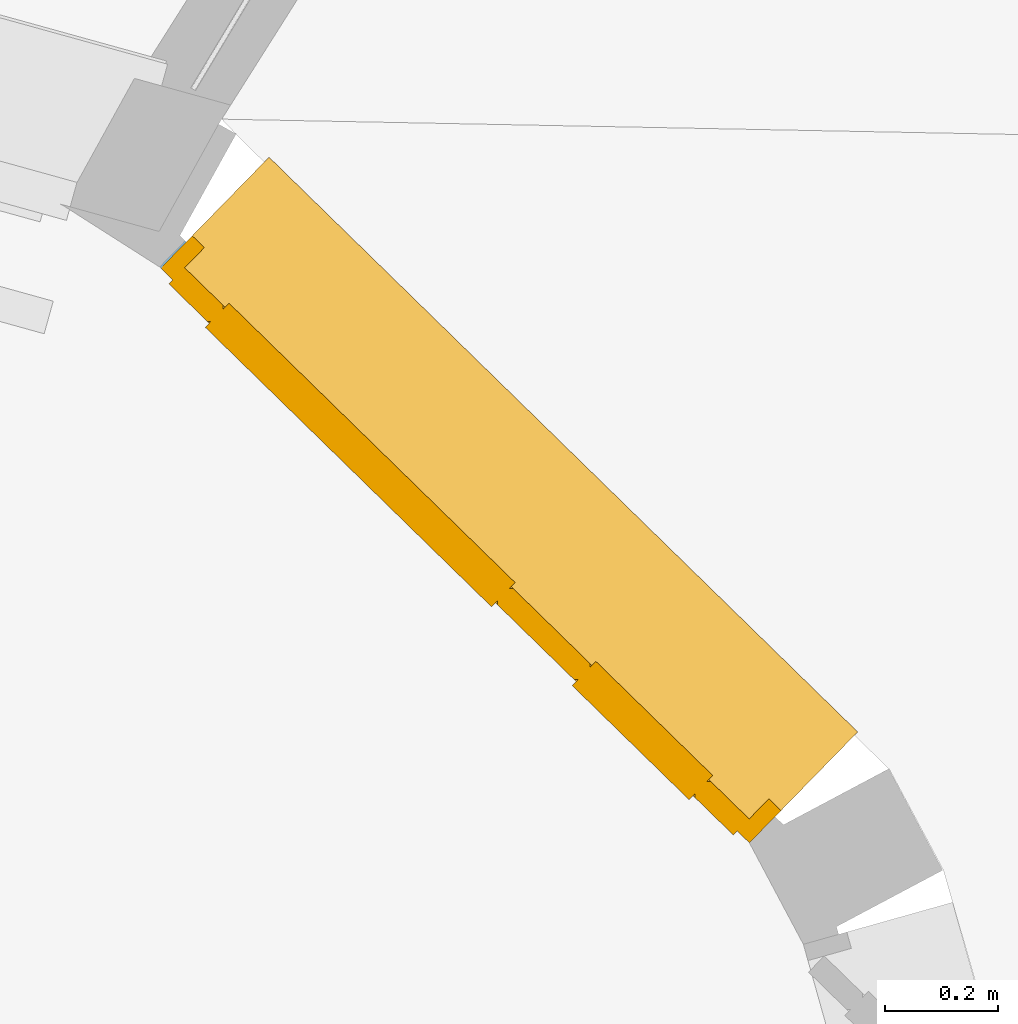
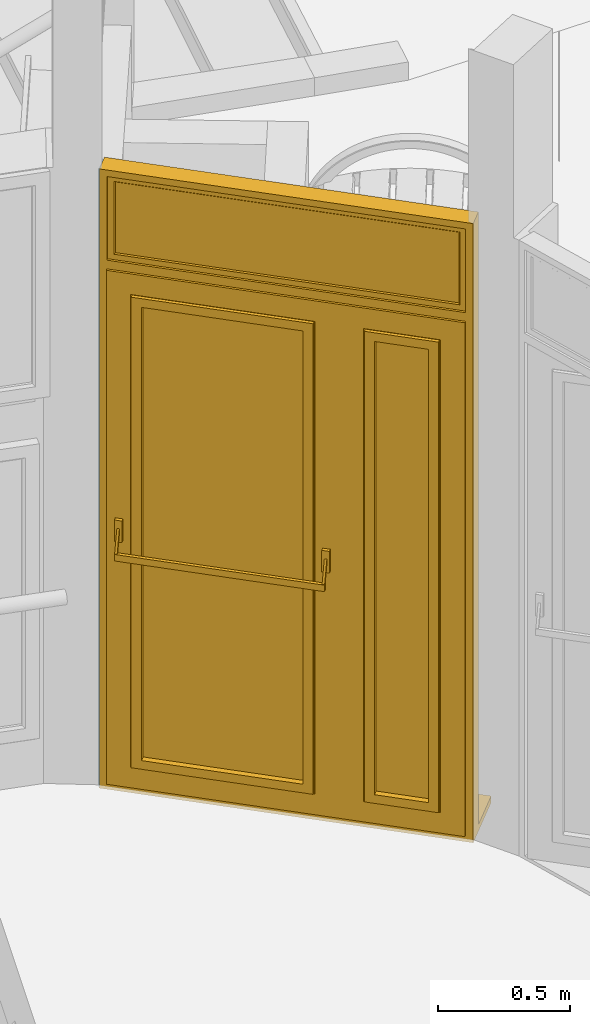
# One storey, part 102 of 133: 1 door, 1 opening, plus 1 element that does not belong to this part.
"""IFC2X3 building model written with IfcOpenShell, lengths in centimetres."""

from ifc_helpers import new_model, entity, si_unit, converted_unit, direction, frame, origin, origin_with_axes, origin_2d_with_axis, place, context, subcontext, project, spatial, polyline, rectangle, outline, extrude, faceted_brep, shape, material, material_list, layer, layer_set, layer_usage, type_object, element, fill, save


model = new_model("IFC2X3")

# Units and contexts
model_context = context("Model", 3, precision=0.0001, world=origin(), true_north=direction((0.225632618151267, 0.974212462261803, 0.0)))
body_context = subcontext(model_context, "Body", "Model", "MODEL_VIEW")
footprint_context = subcontext(model_context, "FootPrint", "Model", "MODEL_VIEW")
profile_context = subcontext(model_context, "Profile", "Model", "MODEL_VIEW")
ifc_project = project(units=[si_unit("LENGTHUNIT", "METRE", prefix="CENTI"), si_unit("AREAUNIT", "SQUARE_METRE", prefix="CENTI"), si_unit("VOLUMEUNIT", "CUBIC_METRE", prefix="CENTI"), converted_unit("PLANEANGLEUNIT", "DEGREE", entity("IfcRatioMeasure", 0.0174532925), si_unit("PLANEANGLEUNIT", "RADIAN"), dimensions=[0, 0, 0, 0, 0, 0, 0])], contexts=[model_context])

# Site, building, storey
site_placement = place(None, origin_with_axes())
site = spatial("IfcSite", under=ifc_project, at=site_placement, Name="Default Site", CompositionType="ELEMENT")
building_placement = place(site_placement, origin_with_axes())
building = spatial("IfcBuilding", under=site, at=building_placement, Name="Default Building", CompositionType="ELEMENT")
storey_placement = place(building_placement, frame((0.0, 0.0, -291.400371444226), z_axis=(0.0, 0.0, 1.0), x_axis=(1.0, 0.0, 0.0)))
storey = spatial("IfcBuildingStorey", under=building, at=storey_placement, Name="Rez-de-Jardin", CompositionType="ELEMENT", Elevation=-291.400371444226)

# Wall, opening, door
ifc_material_1 = material(Name="<aucun>")
ifc_layer = layer(ifc_material_1, 6.5)
ifc_layer_set = layer_set([ifc_layer], Name="default")
ifc_layer_usage = layer_usage(ifc_layer_set, "AXIS2", "POSITIVE", -3.25)
wall_type = type_object("IfcWallType", Name="default 65", PredefinedType="NOTDEFINED", material=ifc_layer_set)
wall_placement = place(storey_placement, frame((1577.95969652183, -375.2853678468, 106.0), z_axis=(0.0, 0.0, 1.0), x_axis=(-0.715501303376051, 0.698611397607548, 0.0)))
wall = element("IfcWallStandardCase", 1, at=wall_placement, inside=storey, type_object=wall_type, material=ifc_layer_usage, Name="Enveloppe 525107", context=body_context, shape_type="SweptSolid", body=[
    extrude(rectangle(XDim=6.49999999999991, YDim=146.254944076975, at=origin_2d_with_axis()), frame((73.1274720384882, 3.5527136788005e-13, -1.55431223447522e-13), z_axis=(0.0, 0.0, 1.0), x_axis=(1.95399252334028e-14, -1.0, 0.0)), (0.0, 0.0, 1.0), 285.400371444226),
])
opening_placement = place(wall_placement, frame((0.0, 0.0, 2.49999999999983), z_axis=(0.0, 0.0, 1.0), x_axis=(1.0, 6.82787160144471e-15, 0.0)))
cartesian_point_1 = entity("IfcCartesianPoint", [0.0, 1.77635683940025e-13, 282.9])
cartesian_point_2 = entity("IfcCartesianPoint", [145.978741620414, 3.25000000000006])
opening = element("IfcOpeningElement", 2, at=opening_placement, cuts=wall, Name="4294966389_11", ObjectType="Opening", shapes=[
    shape(body_context, "Body", "SweptSolid", [extrude(outline(polyline([(0.0, 282.9), (0.0, -2.49999999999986), (145.978741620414, -2.49999999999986), (145.978741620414, 282.9), (0.0, 282.9)])), frame((0.0, 13.25, 0.0), z_axis=(0.0, -1.0, 0.0), x_axis=(1.0, 0.0, 0.0)), (0.0, 0.0, 1.0), 26.5)]),
    shape(profile_context, "Profile", "GeometricCurveSet", [entity("IfcGeometricCurveSet", [entity("IfcPolyline", [cartesian_point_1, entity("IfcCartesianPoint", [0.0, 1.77635683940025e-13, -2.22044604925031e-14]), entity("IfcCartesianPoint", [145.978741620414, 1.77635683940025e-13, -2.22044604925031e-14]), entity("IfcCartesianPoint", [145.978741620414, 1.77635683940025e-13, 282.9]), cartesian_point_1])])]),
    shape(footprint_context, "FootPrint", "GeometricCurveSet", [entity("IfcGeometricCurveSet", [entity("IfcPolyline", [cartesian_point_2, entity("IfcCartesianPoint", [0.0, 3.25000000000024]), entity("IfcCartesianPoint", [0.0, -3.25000000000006]), entity("IfcCartesianPoint", [145.978741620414, -3.25000000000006]), cartesian_point_2])])]),
])
ifc_material_2 = material(Name="Transparent")
ifc_material_3 = material(Name="Béton (01)")
ifc_material_4 = material(Name="Blanc trafic")
ifc_material_5 = material(Name="Aluminium mat")
ifc_material_list = material_list([ifc_material_2, ifc_material_3, ifc_material_4, ifc_material_5])
door_style = type_object("IfcDoorStyle", Name="Porte de Secours_blanc_ 2VB verre_tierce+1IMP verre", ConstructionType="NOTDEFINED", OperationType="DOUBLE_DOOR_SINGLE_SWING", ParameterTakesPrecedence=True, Sizeable=False, material=ifc_material_list)
door_placement = place(opening_placement, frame((0.0, -4.74999999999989, 1.4210854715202e-14), z_axis=(0.0, 0.0, 1.0), x_axis=(1.0, 0.0, 0.0)))
door = element("IfcDoor", 3, at=door_placement, inside=storey, type_object=door_style, material=ifc_material_list, Name="Porte 525457", OverallHeight=282.9, OverallWidth=145.978741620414, context=body_context, shape_type="Brep", body=[
    faceted_brep([(145.978775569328, 8.00002468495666, 2.27689760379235e-06), (-1.33417527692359e-05, 7.99999799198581, 2.27689760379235e-06), (2.60272607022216e-05, 1.5000347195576, 2.27689760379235e-06), (3.09660208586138e-05, -19.4999839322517, 2.27689760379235e-06), (145.978734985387, -19.5000068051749, 2.27689760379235e-06), (145.97874670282, 1.4999947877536, 2.27689760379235e-06), (145.97874670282, 1.4999947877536, -2.99999486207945), (145.978734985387, -19.5000068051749, -2.99999486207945), (3.09660208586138e-05, -19.4999839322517, -2.99999486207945), (2.60272607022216e-05, 1.5000347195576, -2.99999486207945), (-1.33417527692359e-05, 7.99999799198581, -2.99999486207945), (145.978775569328, 8.00002468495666, -2.99999486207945), (145.97874706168, -19.5000068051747, 2.27689760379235e-06), (145.97874706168, -19.5000068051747, -2.99999486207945), (3.09660212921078e-05, -19.5000092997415, 2.27689760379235e-06), (3.09660212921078e-05, -19.5000092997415, -2.99999486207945), (3.06071606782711e-05, 1.50003471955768, 2.27689760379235e-06), (3.06071606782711e-05, 1.50003471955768, -2.99999486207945), (2.59161856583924e-05, 7.99999799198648, 2.27689760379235e-06), (2.59161856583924e-05, 7.99999799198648, -2.99999486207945), (145.978775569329, 8.00000048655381, 2.27689760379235e-06), (145.978775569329, 8.00000048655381, -2.99999486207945), (145.978775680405, 1.4999947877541, 2.27689760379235e-06), (145.978775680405, 1.4999947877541, -2.99999486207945)], [[[0, 1, 2, 3, 4, 5]], [[6, 7, 8, 9, 10, 11]], [[5, 12, 13, 6]], [[4, 14, 15, 7]], [[3, 16, 17, 8]], [[2, 18, 19, 9]], [[1, 20, 21, 10]], [[0, 22, 23, 11]]]),
    faceted_brep([(2.37148647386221e-06, 8.94068818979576e-08, 6.66133814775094e-14), (2.37148647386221e-06, 7.99999991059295, 6.66133814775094e-14), (2.99999951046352, 7.99999991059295, 6.66133814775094e-14), (2.99999951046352, 8.94068818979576e-08, 6.66133814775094e-14), (2.99999951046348, 7.99999991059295, 279.900002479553), (2.99999951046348, 8.94068818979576e-08, 279.900002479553), (2.37148647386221e-06, 7.99999991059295, 282.89999961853), (2.99999951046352, 7.99999991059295, 279.900002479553), (2.37148645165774e-06, 8.94068818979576e-08, 282.89999961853), (2.37148645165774e-06, 7.99999991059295, 282.89999961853), (2.99999951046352, 8.94068818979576e-08, 279.900002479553), (2.37148647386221e-06, 8.94068818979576e-08, 282.89999961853), (142.978742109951, 7.99999991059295, 279.900002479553), (142.978742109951, 8.94068818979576e-08, 279.900002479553), (145.978739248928, 7.99999991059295, 282.89999961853), (145.978739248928, 8.94068818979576e-08, 282.89999961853), (142.978742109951, 8.94068818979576e-08, 6.66133814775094e-14), (142.978742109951, 7.99999991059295, 6.66133814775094e-14), (145.978739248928, 7.99999991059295, 6.66133814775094e-14), (145.978739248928, 8.94068818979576e-08, 6.66133814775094e-14)], [[[0, 1, 2, 3]], [[3, 2, 4, 5]], [[2, 1, 6, 7]], [[1, 0, 8, 9]], [[0, 3, 10, 11]], [[10, 7, 12, 13]], [[7, 6, 14, 12]], [[6, 11, 15, 14]], [[11, 10, 13, 15]], [[16, 17, 18, 19]], [[13, 12, 17, 16]], [[12, 14, 18, 17]], [[14, 15, 19, 18]], [[15, 13, 16, 19]]]),
    faceted_brep([(140.478744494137, 4.99999997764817, 277.39999294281), (139.978741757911, 5.50000271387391, 276.900005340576), (139.978741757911, 5.50000271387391, 244.273996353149), (140.478744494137, 4.99999997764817, 243.774008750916), (139.978739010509, 5.4999999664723, 276.900005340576), (139.978739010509, 6.50000003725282, 276.900005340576), (139.978739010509, 6.50000003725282, 244.273996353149), (139.978739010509, 5.4999999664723, 244.273996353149), (140.478741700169, 7.00000272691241, 277.39999294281), (140.478741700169, 7.00000272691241, 243.774008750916), (139.978739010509, 6.50000003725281, 244.273996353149), (140.478744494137, 6.99999993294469, 277.39999294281), (142.978742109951, 6.99999993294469, 279.900002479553), (142.978742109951, 6.99999993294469, 241.273999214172), (140.478744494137, 6.99999993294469, 243.774008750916), (142.978742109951, 4.99999997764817, 279.900002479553), (142.978742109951, 4.99999997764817, 241.273999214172), (139.978739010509, 5.49999377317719, 244.274002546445), (6.00000260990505, 5.49999377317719, 244.274002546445), (5.49999712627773, 4.99999997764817, 243.774008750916), (6.00000260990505, 6.50000003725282, 244.273996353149), (6.00000260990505, 5.4999999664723, 244.273996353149), (140.478744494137, 6.99999378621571, 243.774002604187), (5.49999712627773, 6.99999378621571, 243.774002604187), (2.99999951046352, 6.99999993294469, 241.273999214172), (5.49999712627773, 6.99999993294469, 243.774008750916), (2.99999951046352, 4.99999997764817, 241.273999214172), (5.99999986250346, 5.5000027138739, 244.273996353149), (5.99999986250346, 5.5000027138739, 276.900005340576), (5.49999712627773, 4.99999997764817, 277.39999294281), (6.00000260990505, 6.50000003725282, 276.900005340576), (6.00000260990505, 5.4999999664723, 276.900005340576), (5.49999992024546, 7.00000272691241, 243.774008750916), (5.49999992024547, 7.00000272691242, 277.39999294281), (6.00000260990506, 6.50000003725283, 276.900005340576), (2.99999951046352, 6.99999993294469, 279.900002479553), (5.49999712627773, 6.99999993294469, 277.39999294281), (2.99999951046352, 4.99999997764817, 279.900002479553), (6.00000260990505, 5.49999377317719, 276.899999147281), (139.978739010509, 5.49999377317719, 276.899999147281), (5.49999712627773, 6.99999378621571, 277.399999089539), (140.478744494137, 6.99999378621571, 277.399999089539)], [[[0, 1, 2, 3]], [[4, 5, 6, 7]], [[5, 8, 9, 10]], [[11, 12, 13, 14]], [[12, 15, 16, 13]], [[15, 0, 3, 16]], [[3, 17, 18, 19]], [[7, 6, 20, 21]], [[6, 22, 23, 20]], [[14, 13, 24, 25]], [[13, 16, 26, 24]], [[16, 3, 19, 26]], [[19, 27, 28, 29]], [[21, 20, 30, 31]], [[20, 32, 33, 34]], [[25, 24, 35, 36]], [[24, 26, 37, 35]], [[26, 19, 29, 37]], [[29, 38, 39, 0]], [[31, 30, 5, 4]], [[30, 40, 41, 5]], [[36, 35, 12, 11]], [[35, 37, 15, 12]], [[37, 29, 0, 15]]]),
    faceted_brep([(6.00000260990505, 5.4999999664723, 276.900005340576), (6.00000260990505, 5.4999999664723, 244.273996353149), (139.978739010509, 5.4999999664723, 244.273996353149), (139.978739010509, 5.4999999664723, 276.900005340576), (139.978739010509, 6.50000003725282, 276.900005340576), (139.978739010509, 6.50000003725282, 244.273996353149), (6.00000260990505, 6.50000003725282, 244.273996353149), (6.00000260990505, 6.50000003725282, 276.900005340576)], [[[0, 1, 2, 3]], [[4, 5, 6, 7]], [[3, 2, 5, 4]], [[2, 1, 6, 5]], [[1, 0, 7, 6]], [[0, 3, 4, 7]]]),
    faceted_brep([(2.99999951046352, 7.99999991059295, 237.27400302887), (2.99999951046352, 3.99999999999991, 237.27400302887), (2.99999951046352, 3.99999999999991, 241.273999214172), (2.99999951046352, 7.99999991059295, 241.273999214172), (142.978742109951, 7.99999991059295, 241.273999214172), (142.978742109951, 3.99999999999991, 241.273999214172), (142.978742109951, 3.99999999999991, 237.27400302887), (142.978742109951, 7.99999991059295, 237.27400302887)], [[[0, 1, 2, 3]], [[4, 5, 6, 7]], [[3, 2, 5, 4]], [[2, 1, 6, 5]], [[1, 0, 7, 6]], [[0, 3, 4, 7]]]),
    faceted_brep([(51.9927421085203, 6.50000003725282, 237.27400302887), (2.99974321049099, 6.50000003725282, 237.27400302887), (2.99974321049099, 6.50000003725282, 6.66133814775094e-14), (51.9927421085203, 6.50000003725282, 6.66133814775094e-14), (51.9927421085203, 7.50000001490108, 6.66133814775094e-14), (2.99974321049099, 7.50000001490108, 6.66133814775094e-14), (2.99974321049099, 7.50000001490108, 237.27400302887), (51.9927421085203, 7.50000001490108, 237.27400302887), (2.99999951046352, 7.50000001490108, 237.27400302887), (2.99999951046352, 7.50000001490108, 6.66133814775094e-14), (51.9925603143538, 7.50000001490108, 6.66133814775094e-14), (51.9925603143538, 7.50000001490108, 237.27400302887), (51.9925603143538, 6.50000003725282, 237.27400302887), (51.9925603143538, 6.50000003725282, 6.66133814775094e-14), (2.99999951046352, 6.50000003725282, 6.66133814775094e-14), (2.99999951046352, 6.50000003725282, 237.27400302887)], [[[0, 1, 2, 3], [0, 3, 2, 1]], [[4, 5, 6, 7], [8, 9, 10, 11]], [[3, 2, 5, 4]], [[2, 1, 6, 5]], [[1, 0, 7, 6]], [[0, 3, 4, 7]], [[12, 11, 10, 13]], [[13, 10, 9, 14]], [[14, 9, 8, 15]], [[15, 8, 11, 12]]]),
    faceted_brep([(133.478739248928, 4.99999997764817, 227.774000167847), (132.978739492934, 5.49999973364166, 227.273988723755), (132.978739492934, 5.49999973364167, 10.0000001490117), (133.478739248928, 4.99999997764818, 9.49999988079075), (132.978739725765, 5.4999999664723, 227.273988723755), (132.978739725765, 8.50000017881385, 227.273988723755), (132.978739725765, 8.50000017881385, 10.0000001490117), (132.978739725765, 5.4999999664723, 10.0000001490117), (133.478739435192, 8.99999988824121, 227.774000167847), (133.478739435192, 8.9999998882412, 9.49999988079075), (132.978739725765, 8.50000017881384, 10.0000001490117), (133.478739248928, 9.00000007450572, 227.774000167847), (142.978742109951, 9.00000007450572, 237.27400302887), (142.978742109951, 9.00000007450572, 6.66133814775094e-14), (133.478739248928, 9.00000007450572, 9.49999988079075), (142.978742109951, 4.99999997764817, 237.27400302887), (142.978742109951, 4.99999997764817, 6.66133814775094e-14), (133.478739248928, 4.99999997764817, 9.49999988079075), (132.978739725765, 5.50000010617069, 10.0000000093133), (61.9925597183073, 5.50000010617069, 10.0000000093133), (61.4925594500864, 4.99999997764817, 9.49999988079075), (61.9925597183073, 8.50000017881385, 10.0000001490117), (61.9925597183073, 5.4999999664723, 10.0000001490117), (133.478739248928, 9.00000026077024, 9.50000006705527), (61.4925594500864, 9.00000026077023, 9.50000006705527), (51.9925603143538, 9.00000007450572, 6.66133814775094e-14), (61.4925594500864, 9.00000007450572, 9.49999988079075), (51.9925603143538, 4.99999997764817, 6.66133814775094e-14), (61.9925595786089, 5.50000010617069, 10.0000001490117), (61.9925595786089, 5.50000010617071, 227.273988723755), (61.4925594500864, 4.9999999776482, 227.774000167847), (61.9925597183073, 8.50000017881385, 227.273988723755), (61.9925597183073, 5.4999999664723, 227.273988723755), (61.4925596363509, 9.00000026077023, 9.49999988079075), (61.4925596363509, 9.00000026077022, 227.774000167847), (61.9925597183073, 8.50000017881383, 227.273988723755), (51.9925603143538, 9.00000007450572, 237.27400302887), (61.4925594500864, 9.00000007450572, 227.774000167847), (51.9925603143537, 4.99999997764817, 237.27400302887), (51.9925603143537, 9.00000007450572, 237.27400302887), (61.4925594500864, 4.99999997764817, 227.774000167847), (51.9925603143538, 4.99999997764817, 237.27400302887), (61.9925597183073, 5.50000569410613, 227.273994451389), (132.978739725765, 5.50000569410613, 227.273994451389), (61.4925594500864, 9.00000584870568, 227.773994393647), (133.478739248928, 9.00000584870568, 227.773994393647)], [[[0, 1, 2, 3]], [[4, 5, 6, 7]], [[5, 8, 9, 10]], [[11, 12, 13, 14]], [[12, 15, 16, 13]], [[15, 0, 17, 16]], [[17, 18, 19, 20]], [[7, 6, 21, 22]], [[6, 23, 24, 21]], [[14, 13, 25, 26]], [[13, 16, 27, 25]], [[16, 17, 20, 27]], [[20, 28, 29, 30]], [[22, 21, 31, 32]], [[21, 33, 34, 35]], [[26, 25, 36, 37]], [[25, 27, 38, 39]], [[27, 20, 40, 41]], [[40, 42, 43, 0]], [[32, 31, 5, 4]], [[31, 44, 45, 5]], [[37, 36, 12, 11]], [[36, 41, 15, 12]], [[41, 40, 0, 15]]]),
    faceted_brep([(55.4925599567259, 9.00000007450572, 123.636996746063), (55.4925599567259, 9.00000007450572, 113.636994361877), (58.4925600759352, 9.00000007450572, 113.636994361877), (58.4925600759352, 9.00000007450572, 123.636996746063), (58.4925600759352, 10.4999997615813, 123.636996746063), (58.4925600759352, 10.4999997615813, 113.636994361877), (55.4925599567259, 10.4999997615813, 113.636994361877), (55.4925599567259, 10.4999997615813, 123.636996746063)], [[[0, 1, 2, 3]], [[4, 5, 6, 7]], [[3, 2, 5, 4]], [[2, 1, 6, 5]], [[1, 0, 7, 6]], [[0, 3, 4, 7]]]),
    faceted_brep([(56.4925590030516, 10.4999997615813, 119.886994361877), (56.4925590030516, 10.4999997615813, 117.386996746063), (57.4925595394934, 10.4999997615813, 117.386996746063), (57.4925595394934, 10.4999997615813, 119.886994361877), (57.4925595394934, 13.9545456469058, 110.387003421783), (57.4925595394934, 13.0454548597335, 110.387003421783), (56.4925590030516, 13.0454548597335, 110.387003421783), (56.4925590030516, 13.9545456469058, 110.387003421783), (56.4925590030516, 13.045452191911, 110.387002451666), (57.4925595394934, 13.045452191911, 110.387002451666), (57.4925595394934, 13.9545423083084, 110.387002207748), (56.4925590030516, 13.9545423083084, 110.387002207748)], [[[0, 1, 2, 3]], [[4, 5, 6, 7]], [[3, 2, 5, 4]], [[2, 1, 8, 9]], [[1, 0, 7, 6]], [[0, 3, 10, 11]]]),
    faceted_brep([(136.478742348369, 9.00000007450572, 123.636996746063), (136.478742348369, 9.00000007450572, 113.636994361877), (139.478739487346, 9.00000007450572, 113.636994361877), (139.478739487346, 9.00000007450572, 123.636996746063), (139.478739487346, 10.4999997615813, 123.636996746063), (139.478739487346, 10.4999997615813, 113.636994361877), (136.478742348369, 10.4999997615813, 113.636994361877), (136.478742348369, 10.4999997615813, 123.636996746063)], [[[0, 1, 2, 3]], [[4, 5, 6, 7]], [[3, 2, 5, 4]], [[2, 1, 6, 5]], [[1, 0, 7, 6]], [[0, 3, 4, 7]]]),
    faceted_brep([(137.478741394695, 10.4999997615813, 119.886994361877), (137.478741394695, 10.4999997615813, 117.386996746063), (138.478740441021, 10.4999997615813, 117.386996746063), (138.478740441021, 10.4999997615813, 119.886994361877), (138.478740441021, 13.9545456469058, 110.387003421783), (138.478740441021, 13.0454548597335, 110.387003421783), (137.478741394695, 13.0454548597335, 110.387003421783), (137.478741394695, 13.9545456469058, 110.387003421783), (137.478741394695, 13.045452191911, 110.387002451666), (138.478740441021, 13.045452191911, 110.387002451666), (138.478740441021, 13.9545423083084, 110.387002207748), (137.478741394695, 13.9545423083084, 110.387002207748)], [[[0, 1, 2, 3]], [[4, 5, 6, 7]], [[3, 2, 5, 4]], [[2, 1, 8, 9]], [[1, 0, 7, 6]], [[0, 3, 10, 11]]]),
    faceted_brep([(56.4925590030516, 12.7999999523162, 107.386994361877), (56.4925590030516, 12.7999999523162, 110.387003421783), (56.4925590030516, 14.1999998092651, 110.387003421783), (56.4925590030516, 14.1999998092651, 107.386994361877), (138.478740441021, 14.1999998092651, 107.386994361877), (138.478740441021, 14.1999998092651, 110.387003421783), (138.478740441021, 12.7999999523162, 110.387003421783), (138.478740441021, 12.7999999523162, 107.386994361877)], [[[0, 1, 2, 3]], [[4, 5, 6, 7]], [[3, 2, 5, 4]], [[2, 1, 6, 5]], [[1, 0, 7, 6]], [[0, 3, 4, 7]]]),
    faceted_brep([(128.978743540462, 3.99999999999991, 223.273992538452), (128.978743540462, 9.99999986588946, 223.273992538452), (128.978743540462, 9.99999986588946, 14.0000000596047), (128.978743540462, 3.99999999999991, 14.0000000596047), (132.978739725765, 9.99999986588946, 227.273988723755), (132.978739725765, 9.99999986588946, 10.0000001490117), (132.978739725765, 3.99999999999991, 227.273988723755), (132.978739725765, 3.99999999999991, 10.0000001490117), (65.9925596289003, 9.99999986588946, 14.0000000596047), (65.9925596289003, 3.99999999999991, 14.0000000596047), (61.9925597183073, 9.99999986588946, 10.0000001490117), (61.9925597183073, 3.99999999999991, 10.0000001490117), (65.9925596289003, 9.99999986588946, 223.273992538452), (65.9925596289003, 3.99999999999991, 223.273992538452), (61.9925597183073, 9.99999986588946, 227.273988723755), (61.9925597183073, 3.99999999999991, 227.273988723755)], [[[0, 1, 2, 3]], [[1, 4, 5, 2]], [[4, 6, 7, 5]], [[6, 0, 3, 7]], [[3, 2, 8, 9]], [[2, 5, 10, 8]], [[5, 7, 11, 10]], [[7, 3, 9, 11]], [[9, 8, 12, 13]], [[8, 10, 14, 12]], [[10, 11, 15, 14]], [[11, 9, 13, 15]], [[13, 12, 1, 0]], [[12, 14, 4, 1]], [[14, 15, 6, 4]], [[15, 13, 0, 6]]]),
    faceted_brep([(65.9925596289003, 6.50000003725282, 223.273992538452), (65.9925596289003, 6.50000003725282, 14.0000000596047), (128.978743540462, 6.50000003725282, 14.0000000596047), (128.978743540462, 6.50000003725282, 223.273992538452), (128.978743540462, 7.50000001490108, 223.273992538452), (128.978743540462, 7.50000001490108, 14.0000000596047), (65.9925596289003, 7.50000001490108, 14.0000000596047), (65.9925596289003, 7.50000001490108, 223.273992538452)], [[[0, 1, 2, 3]], [[4, 5, 6, 7]], [[3, 2, 5, 4]], [[2, 1, 6, 5]], [[1, 0, 7, 6]], [[0, 3, 4, 7]]]),
    faceted_brep([(42.4925589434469, 4.99999997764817, 227.774000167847), (41.9925591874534, 5.49999973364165, 227.273988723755), (41.9925591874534, 5.49999973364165, 10.0000001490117), (42.4925589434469, 4.99999997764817, 9.49999988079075), (41.9925594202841, 5.4999999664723, 227.273988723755), (41.9925594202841, 8.50000017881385, 227.273988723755), (41.9925594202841, 8.50000017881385, 10.0000001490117), (41.9925594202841, 5.4999999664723, 10.0000001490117), (42.4925591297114, 8.9999998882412, 227.774000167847), (42.4925591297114, 8.9999998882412, 9.49999988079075), (42.4925589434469, 9.00000007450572, 227.774000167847), (51.9925603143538, 9.00000007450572, 237.27400302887), (51.9925603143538, 9.00000007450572, 6.66133814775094e-14), (42.4925589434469, 9.00000007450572, 9.49999988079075), (51.9925603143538, 4.99999997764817, 237.27400302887), (51.9925603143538, 4.99999997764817, 6.66133814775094e-14), (41.9925594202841, 5.50000010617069, 10.0000000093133), (13.0000018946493, 5.50000010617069, 10.0000000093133), (12.5000023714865, 4.99999997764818, 9.49999988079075), (13.0000018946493, 8.50000017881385, 10.0000001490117), (13.0000018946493, 5.4999999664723, 10.0000001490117), (42.4925589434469, 9.00000026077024, 9.50000006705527), (12.5000023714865, 9.00000026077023, 9.50000006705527), (2.99999951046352, 9.00000007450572, 6.66133814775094e-14), (12.5000023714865, 9.00000007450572, 9.49999988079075), (2.99999951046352, 4.99999997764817, 6.66133814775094e-14), (12.5000023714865, 4.99999997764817, 9.49999988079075), (13.00000212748, 5.49999973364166, 10.0000001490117), (13.0000021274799, 5.49999973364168, 227.273988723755), (12.5000023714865, 4.9999999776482, 227.774000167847), (13.0000018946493, 8.50000017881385, 227.273988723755), (13.0000018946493, 5.4999999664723, 227.273988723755), (12.500002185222, 8.9999998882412, 9.49999988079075), (12.500002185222, 8.9999998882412, 227.774000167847), (2.99999951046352, 9.00000007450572, 237.27400302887), (12.5000023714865, 9.00000007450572, 227.774000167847), (2.99999951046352, 4.99999997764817, 237.27400302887), (12.5000023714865, 4.99999997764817, 227.774000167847), (13.0000018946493, 5.50000569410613, 227.273994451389), (41.9925594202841, 5.50000569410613, 227.273994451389), (12.5000023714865, 9.00000584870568, 227.773994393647), (42.4925589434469, 9.00000584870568, 227.773994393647)], [[[0, 1, 2, 3]], [[4, 5, 6, 7]], [[5, 8, 9, 6]], [[10, 11, 12, 13]], [[11, 14, 15, 12]], [[14, 0, 3, 15]], [[3, 16, 17, 18]], [[7, 6, 19, 20]], [[6, 21, 22, 19]], [[13, 12, 23, 24]], [[12, 15, 25, 23]], [[15, 3, 26, 25]], [[26, 27, 28, 29]], [[20, 19, 30, 31]], [[19, 32, 33, 30]], [[24, 23, 34, 35]], [[23, 25, 36, 34]], [[25, 26, 37, 36]], [[37, 38, 39, 0]], [[31, 30, 5, 4]], [[30, 40, 41, 5]], [[35, 34, 11, 10]], [[34, 36, 14, 11]], [[36, 37, 0, 14]]]),
    faceted_brep([(37.9925602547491, 3.99999999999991, 223.273992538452), (37.9925602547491, 9.99999986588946, 223.273992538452), (37.9925602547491, 9.99999986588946, 14.0000000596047), (37.9925602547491, 3.99999999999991, 14.0000000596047), (41.9925594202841, 9.99999986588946, 227.273988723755), (41.9925594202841, 9.99999986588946, 10.0000001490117), (41.9925594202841, 3.99999999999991, 227.273988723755), (41.9925594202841, 3.99999999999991, 10.0000001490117), (16.9999980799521, 9.99999986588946, 14.0000000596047), (16.9999980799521, 3.99999999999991, 14.0000000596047), (13.0000018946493, 9.99999986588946, 10.0000001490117), (13.0000018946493, 3.99999999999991, 10.0000001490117), (16.9999980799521, 9.99999986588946, 223.273992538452), (16.9999980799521, 3.99999999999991, 223.273992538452), (13.0000018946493, 9.99999986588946, 227.273988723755), (13.0000018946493, 3.99999999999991, 227.273988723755)], [[[0, 1, 2, 3]], [[1, 4, 5, 2]], [[4, 6, 7, 5]], [[6, 0, 3, 7]], [[3, 2, 8, 9]], [[2, 5, 10, 8]], [[5, 7, 11, 10]], [[7, 3, 9, 11]], [[9, 8, 12, 13]], [[8, 10, 14, 12]], [[10, 11, 15, 14]], [[11, 9, 13, 15]], [[13, 12, 1, 0]], [[12, 14, 4, 1]], [[14, 15, 6, 4]], [[15, 13, 0, 6]]]),
    faceted_brep([(16.9999980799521, 6.50000003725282, 223.273992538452), (16.9999980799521, 6.50000003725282, 14.0000000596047), (37.9925602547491, 6.50000003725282, 14.0000000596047), (37.9925602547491, 6.50000003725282, 223.273992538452), (37.9925602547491, 7.50000001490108, 223.273992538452), (37.9925602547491, 7.50000001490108, 14.0000000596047), (16.9999980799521, 7.50000001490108, 14.0000000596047), (16.9999980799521, 7.50000001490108, 223.273992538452)], [[[0, 1, 2, 3]], [[4, 5, 6, 7]], [[3, 2, 5, 4]], [[2, 1, 6, 5]], [[1, 0, 7, 6]], [[0, 3, 4, 7]]]),
])
fill(opening, door)

save(model, "model.ifc")
